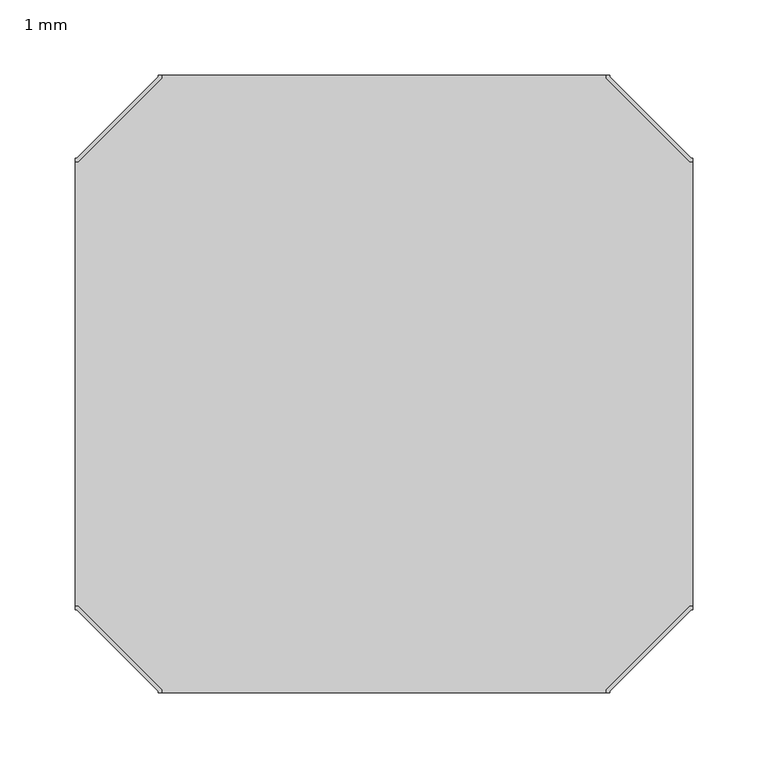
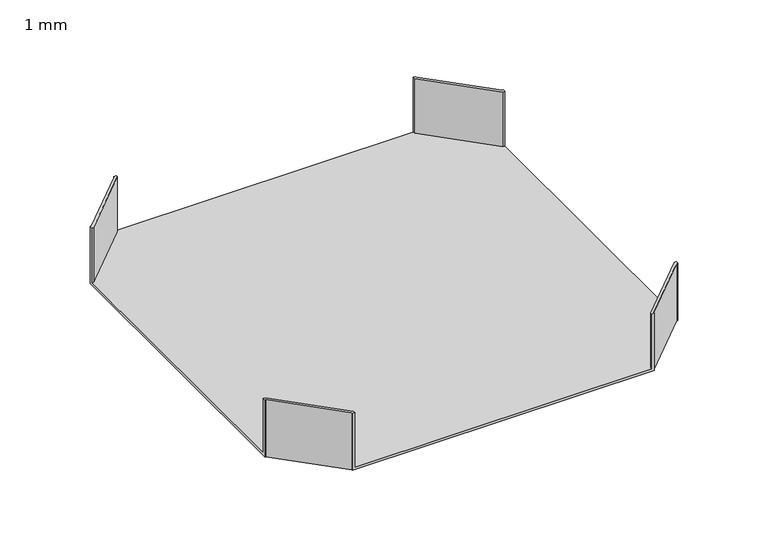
"""IFC4 building model written with IfcOpenShell, lengths in millimetres: cable carrier fitting geometry, BAKS_Czwórnik_koryta uniwersalny : 1 mm."""

from ifc_helpers import new_model, si_unit, origin, place, context, project, spatial, faceted_brep, source, transform, mapped, element, save


def cable_carrier_fitting_1_mm_d3f2b815(model_context):
    return source(origin(), model_context, "Body", "Brep", [
        faceted_brep([(-147.46, -202.9478976, 30.0), (-202.9478976, -147.46, 30.0), (-205.0, -147.46, 30.0), (-205.0, -150.0, 30.0), (-204.0, -150.0, 30.0), (-150.0, -204.0, 30.0), (-150.0, -205.0, 30.0), (-147.46, -205.0, 30.0), (147.46, -202.9478976, 30.0), (147.46, -205.0, 30.0), (150.0, -205.0, 30.0), (150.0, -204.0, 30.0), (204.0, -150.0, 30.0), (205.0, -150.0, 30.0), (205.0, -147.46, 30.0), (202.9478976, -147.46, 30.0), (-147.46, 202.9478976, 30.0), (-147.46, 205.0, 30.0), (-150.0, 205.0, 30.0), (-150.0, 204.0, 30.0), (-204.0, 150.0, 30.0), (-205.0, 150.0, 30.0), (-205.0, 147.46, 30.0), (-202.9478976, 147.46, 30.0), (147.46, 202.9478976, 30.0), (202.9478976, 147.46, 30.0), (205.0, 147.46, 30.0), (205.0, 150.0, 30.0), (204.0, 150.0, 30.0), (150.0, 204.0, 30.0), (150.0, 205.0, 30.0), (147.46, 205.0, 30.0), (-150.0, -205.0, -30.0), (-150.0, -204.0, -30.0), (-204.0, -150.0, -30.0), (-205.0, -150.0, -30.0), (-205.0, 150.0, -30.0), (-204.0, 150.0, -30.0), (-150.0, 204.0, -30.0), (-150.0, 205.0, -30.0), (150.0, 205.0, -30.0), (150.0, 204.0, -30.0), (204.0, 150.0, -30.0), (205.0, 150.0, -30.0), (205.0, -150.0, -30.0), (204.0, -150.0, -30.0), (150.0, -204.0, -30.0), (150.0, -205.0, -30.0), (-147.46, -202.9478976, -27.46), (-202.9478976, -147.46, -27.46), (-205.0, -147.46, -27.46), (-205.0, 147.46, -27.46), (-204.0, -150.0, -27.46), (-150.0, -204.0, -27.46), (147.46, -205.0, -27.46), (-147.46, -205.0, -27.46), (150.0, -204.0, -27.46), (204.0, -150.0, -27.46), (205.0, 147.46, -27.46), (205.0, -147.46, -27.46), (202.9478976, -147.46, -27.46), (147.46, -202.9478976, -27.46), (-147.46, 202.9478976, -27.46), (-147.46, 205.0, -27.46), (147.46, 205.0, -27.46), (-150.0, 204.0, -27.46), (-204.0, 150.0, -27.46), (-202.9478976, 147.46, -27.46), (147.46, 202.9478976, -27.46), (202.9478976, 147.46, -27.46), (204.0, 150.0, -27.46), (150.0, 204.0, -27.46)], [[[0, 1, 2, 3, 4, 5, 6, 7]], [[8, 9, 10, 11, 12, 13, 14, 15]], [[16, 17, 18, 19, 20, 21, 22, 23]], [[24, 25, 26, 27, 28, 29, 30, 31]], [[32, 33, 34, 35, 36, 37, 38, 39, 40, 41, 42, 43, 44, 45, 46, 47]], [[1, 0, 48, 49]], [[2, 1, 49, 50]], [[3, 2, 50, 51, 22, 21, 36, 35]], [[4, 3, 35, 34, 52]], [[5, 4, 52, 34, 33, 53]], [[32, 6, 5, 53, 33]], [[7, 6, 32, 47, 10, 9, 54, 55]], [[0, 7, 55, 48]], [[12, 11, 56, 46, 45, 57]], [[44, 13, 12, 57, 45]], [[14, 13, 44, 43, 27, 26, 58, 59]], [[15, 14, 59, 60]], [[8, 15, 60, 61]], [[9, 8, 61, 54]], [[11, 10, 47, 46, 56]], [[17, 16, 62, 63]], [[18, 17, 63, 64, 31, 30, 40, 39]], [[19, 18, 39, 38, 65]], [[20, 19, 65, 38, 37, 66]], [[36, 21, 20, 66, 37]], [[23, 22, 51, 67]], [[16, 23, 67, 62]], [[25, 24, 68, 69]], [[26, 25, 69, 58]], [[28, 27, 43, 42, 70]], [[29, 28, 70, 42, 41, 71]], [[40, 30, 29, 71, 41]], [[24, 31, 64, 68]], [[55, 54, 61, 60, 59, 58, 69, 68, 64, 63, 62, 67, 51, 50, 49, 48]]]),
    ])


if __name__ == "__main__":
    model = new_model("IFC4")
    model_context = context("Model", 3, world=origin())
    ifc_project = project(units=[si_unit("LENGTHUNIT", "METRE", prefix="MILLI")], contexts=[model_context])
    site = spatial("IfcSite", under=ifc_project)
    building = spatial("IfcBuilding", under=site)
    placement = place(None, origin())
    cable_carrier_fitting_1_mm_shape = cable_carrier_fitting_1_mm_d3f2b815(model_context)
    element("IfcCableCarrierFitting", 1, ObjectType="BAKS_Czwórnik_koryta uniwersalny : 1 mm", at=placement, inside=building, context=model_context, shape_type="MappedRepresentation", body=[
        mapped(cable_carrier_fitting_1_mm_shape, transform((0.0, 0.0, 0.0), x_axis=(1.0, 0.0, 0.0), y_axis=(0.0, 1.0, 0.0), z_axis=(0.0, 0.0, 1.0))),
    ])
    save(model, "model.ifc")
